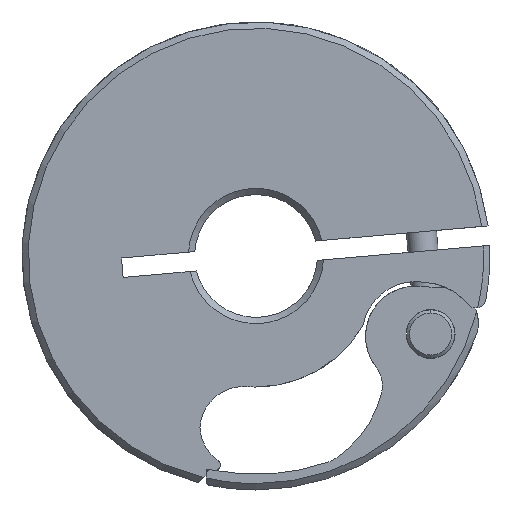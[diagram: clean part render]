
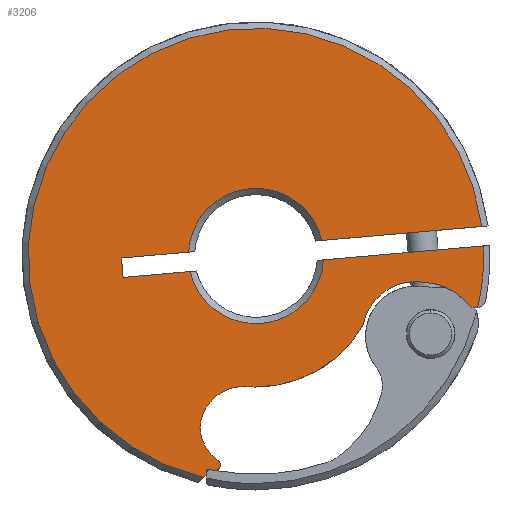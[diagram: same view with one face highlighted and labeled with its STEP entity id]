
A CAD part, front view. The second image highlights one B-rep face of the part: STEP entity #3206.
In plain terms, the highlighted planar face has unit normal (0, -1, 0).
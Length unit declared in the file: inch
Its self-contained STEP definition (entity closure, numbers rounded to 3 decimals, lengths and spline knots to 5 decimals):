
#752=CARTESIAN_POINT('',(0.,0.,0.));
#753=DIRECTION('',(0.,1.,0.));
#754=DIRECTION('',(-0.998,0.,0.057));
#755=AXIS2_PLACEMENT_3D('',#752,#753,#754);
#760=DIRECTION('',(0.996,0.,0.087));
#761=VECTOR('',#760,0.21541);
#762=CARTESIAN_POINT('',(-0.43109,0.,-0.00635));
#763=LINE('',#762,#761);
#767=DIRECTION('',(-0.087,0.,0.996));
#768=VECTOR('',#767,0.0625);
#769=CARTESIAN_POINT('',(-0.42564,0.,-0.06861));
#770=LINE('',#769,#768);
#774=CARTESIAN_POINT('',(0.,0.,0.));
#775=DIRECTION('',(0.,1.,0.));
#776=DIRECTION('',(0.998,0.,-0.057));
#777=AXIS2_PLACEMENT_3D('',#774,#775,#776);
#782=CARTESIAN_POINT('',(0.,0.,0.));
#783=DIRECTION('',(0.,-1.,0.));
#784=DIRECTION('',(0.974,0.,-0.227));
#785=AXIS2_PLACEMENT_3D('',#782,#783,#784);
#790=CARTESIAN_POINT('',(0.70488,0.,-0.13398));
#791=DIRECTION('',(0.,-1.,0.));
#792=DIRECTION('',(-0.774,0.,-0.633));
#793=AXIS2_PLACEMENT_3D('',#790,#791,#792);
#798=CARTESIAN_POINT('',(0.53177,0.,-0.27556));
#799=DIRECTION('',(0.,1.,0.));
#800=DIRECTION('',(0.06,0.,0.998));
#801=AXIS2_PLACEMENT_3D('',#798,#799,#800);
#806=CARTESIAN_POINT('',(0.51221,0.,-0.25395));
#807=DIRECTION('',(0.,1.,0.));
#808=DIRECTION('',(-0.984,0.,0.179));
#809=AXIS2_PLACEMENT_3D('',#806,#807,#808);
#814=CARTESIAN_POINT('',(-0.00154,0.,-0.01994));
#815=DIRECTION('',(0.,-1.,0.));
#816=DIRECTION('',(0.,0.,-1.));
#817=AXIS2_PLACEMENT_3D('',#814,#815,#816);
#822=CARTESIAN_POINT('',(-0.00154,0.,-0.01994));
#823=DIRECTION('',(0.,-1.,0.));
#824=DIRECTION('',(-0.071,0.,-0.997));
#825=AXIS2_PLACEMENT_3D('',#822,#823,#824);
#830=CARTESIAN_POINT('',(-0.04,0.,-0.55857));
#831=DIRECTION('',(0.,1.,0.));
#832=DIRECTION('',(-0.998,0.,0.06));
#833=AXIS2_PLACEMENT_3D('',#830,#831,#832);
#838=CARTESIAN_POINT('',(-0.04,0.,-0.54178));
#839=DIRECTION('',(0.,1.,0.));
#840=DIRECTION('',(-0.581,0.,-0.814));
#841=AXIS2_PLACEMENT_3D('',#838,#839,#840);
#846=CARTESIAN_POINT('',(-0.13,0.,-0.66798));
#847=DIRECTION('',(0.,-1.,0.));
#848=DIRECTION('',(1.,0.,0.));
#849=AXIS2_PLACEMENT_3D('',#846,#847,#848);
#854=DIRECTION('',(0.,0.,1.));
#855=VECTOR('',#854,0.00446);
#856=CARTESIAN_POINT('',(-0.115,0.,-0.67244));
#857=LINE('',#856,#855);
#861=CARTESIAN_POINT('',(-0.13,0.,-0.67244));
#862=DIRECTION('',(0.,-1.,0.));
#863=DIRECTION('',(0.,0.,-1.));
#864=AXIS2_PLACEMENT_3D('',#861,#862,#863);
#869=CARTESIAN_POINT('',(-0.13,0.,-0.67244));
#870=DIRECTION('',(0.,-1.,0.));
#871=DIRECTION('',(-0.156,0.,-0.988));
#872=AXIS2_PLACEMENT_3D('',#869,#870,#871);
#877=DIRECTION('',(0.988,0.,-0.156));
#878=VECTOR('',#877,0.028);
#879=CARTESIAN_POINT('',(-0.16,0.,-0.68287));
#880=LINE('',#879,#878);
#884=DIRECTION('',(0.,0.,1.));
#885=VECTOR('',#884,0.01986);
#886=CARTESIAN_POINT('',(-0.16,0.,-0.70273));
#887=LINE('',#886,#885);
#891=DIRECTION('',(0.707,0.,0.707));
#892=VECTOR('',#891,0.01094);
#893=CARTESIAN_POINT('',(-0.16773,0.,-0.71047));
#894=LINE('',#893,#892);
#898=CARTESIAN_POINT('',(0.,0.,0.));
#899=DIRECTION('',(0.,-1.,0.));
#900=DIRECTION('',(0.992,0.,0.13));
#901=AXIS2_PLACEMENT_3D('',#898,#899,#900);
#906=DIRECTION('',(0.996,0.,0.087));
#907=VECTOR('',#906,0.51474);
#908=CARTESIAN_POINT('',(0.21105,0.,0.04983));
#909=LINE('',#908,#907);
#913=CARTESIAN_POINT('',(0.,0.,0.));
#914=DIRECTION('',(0.,1.,0.));
#915=DIRECTION('',(0.,0.,1.));
#916=AXIS2_PLACEMENT_3D('',#913,#914,#915);
#965=DIRECTION('',(-0.996,0.,-0.087));
#966=VECTOR('',#965,0.21541);
#967=CARTESIAN_POINT('',(-0.21105,0.,-0.04983));
#968=LINE('',#967,#966);
#1074=DIRECTION('',(-0.996,0.,-0.087));
#1075=VECTOR('',#1074,0.51474);
#1076=CARTESIAN_POINT('',(0.72928,0.,0.03243));
#1077=LINE('',#1076,#1075);
#2593=CARTESIAN_POINT('',(0.21649,0.,-0.01243));
#2594=CARTESIAN_POINT('',(-0.21105,0.,-0.04983));
#2595=VERTEX_POINT('',#2593);
#2596=VERTEX_POINT('',#2594);
#2604=CARTESIAN_POINT('',(-0.42564,0.,-0.06861));
#2605=VERTEX_POINT('',#2604);
#2606=CARTESIAN_POINT('',(-0.21649,0.,0.01243));
#2607=CARTESIAN_POINT('',(0.,0.,0.21685));
#2608=VERTEX_POINT('',#2606);
#2609=VERTEX_POINT('',#2607);
#2610=CARTESIAN_POINT('',(-0.43109,0.,-0.00635));
#2611=VERTEX_POINT('',#2610);
#2612=CARTESIAN_POINT('',(0.72928,0.,0.03243));
#2613=VERTEX_POINT('',#2612);
#2614=CARTESIAN_POINT('',(0.7109,0.,-0.16591));
#2615=VERTEX_POINT('',#2614);
#2616=CARTESIAN_POINT('',(0.54321,0.,-0.08477));
#2617=CARTESIAN_POINT('',(0.67972,0.,-0.15455));
#2618=VERTEX_POINT('',#2616);
#2619=VERTEX_POINT('',#2617);
#2620=CARTESIAN_POINT('',(-0.00154,0.,-0.41994));
#2621=CARTESIAN_POINT('',(0.34298,0.,-0.22318));
#2622=VERTEX_POINT('',#2620);
#2623=VERTEX_POINT('',#2621);
#2624=CARTESIAN_POINT('',(-0.03001,0.,-0.41893));
#2625=VERTEX_POINT('',#2624);
#2626=CARTESIAN_POINT('',(-0.12129,0.,-0.65577));
#2627=CARTESIAN_POINT('',(-0.17975,0.,-0.55018));
#2628=VERTEX_POINT('',#2626);
#2629=VERTEX_POINT('',#2627);
#2630=CARTESIAN_POINT('',(-0.115,0.,-0.66798));
#2631=VERTEX_POINT('',#2630);
#2632=CARTESIAN_POINT('',(-0.115,0.,-0.67244));
#2633=VERTEX_POINT('',#2632);
#2634=CARTESIAN_POINT('',(-0.13,0.,-0.68744));
#2635=VERTEX_POINT('',#2634);
#2636=CARTESIAN_POINT('',(-0.13235,0.,-0.68725));
#2637=VERTEX_POINT('',#2636);
#2638=CARTESIAN_POINT('',(-0.16,0.,-0.68287));
#2639=VERTEX_POINT('',#2638);
#2640=CARTESIAN_POINT('',(-0.16,0.,-0.70273));
#2641=VERTEX_POINT('',#2640);
#2642=CARTESIAN_POINT('',(-0.16773,0.,-0.71047));
#2643=VERTEX_POINT('',#2642);
#2644=CARTESIAN_POINT('',(0.21105,0.,0.04983));
#2645=CARTESIAN_POINT('',(0.72383,0.,0.0947));
#2646=VERTEX_POINT('',#2644);
#2647=VERTEX_POINT('',#2645);
#3156=CARTESIAN_POINT('',(0.,0.,0.));
#3157=DIRECTION('',(0.,1.,0.));
#3158=DIRECTION('',(0.,0.,1.));
#3159=AXIS2_PLACEMENT_3D('',#3156,#3157,#3158);
#3160=PLANE('',#3159);
#3161=ORIENTED_EDGE('',*,*,#3014,.F.);
#3163=ORIENTED_EDGE('',*,*,#3162,.F.);
#3165=ORIENTED_EDGE('',*,*,#3164,.F.);
#3167=ORIENTED_EDGE('',*,*,#3166,.F.);
#3169=ORIENTED_EDGE('',*,*,#3168,.F.);
#3171=ORIENTED_EDGE('',*,*,#3170,.F.);
#3173=ORIENTED_EDGE('',*,*,#3172,.F.);
#3175=ORIENTED_EDGE('',*,*,#3174,.F.);
#3177=ORIENTED_EDGE('',*,*,#3176,.F.);
#3179=ORIENTED_EDGE('',*,*,#3178,.F.);
#3181=ORIENTED_EDGE('',*,*,#3180,.F.);
#3183=ORIENTED_EDGE('',*,*,#3182,.F.);
#3185=ORIENTED_EDGE('',*,*,#3184,.F.);
#3187=ORIENTED_EDGE('',*,*,#3186,.F.);
#3189=ORIENTED_EDGE('',*,*,#3188,.F.);
#3191=ORIENTED_EDGE('',*,*,#3190,.F.);
#3192=ORIENTED_EDGE('',*,*,#3146,.F.);
#3193=ORIENTED_EDGE('',*,*,#3144,.F.);
#3195=ORIENTED_EDGE('',*,*,#3194,.F.);
#3197=ORIENTED_EDGE('',*,*,#3196,.F.);
#3199=ORIENTED_EDGE('',*,*,#3198,.F.);
#3201=ORIENTED_EDGE('',*,*,#3200,.F.);
#3202=ORIENTED_EDGE('',*,*,#2984,.F.);
#3203=ORIENTED_EDGE('',*,*,#3016,.F.);
#3204=EDGE_LOOP('',(#3161,#3163,#3165,#3167,#3169,#3171,#3173,#3175,#3177,#3179,
#3181,#3183,#3185,#3187,#3189,#3191,#3192,#3193,#3195,#3197,#3199,#3201,#3202,
#3203));
#3205=FACE_OUTER_BOUND('',#3204,.F.);
#756=CIRCLE('',#755,0.21685);
#778=CIRCLE('',#777,0.21685);
#786=CIRCLE('',#785,0.73);
#794=CIRCLE('',#793,0.0325);
#802=CIRCLE('',#801,0.19114);
#810=CIRCLE('',#809,0.172);
#818=CIRCLE('',#817,0.4);
#826=CIRCLE('',#825,0.4);
#834=CIRCLE('',#833,0.14);
#842=CIRCLE('',#841,0.14);
#850=CIRCLE('',#849,0.015);
#865=CIRCLE('',#864,0.015);
#873=CIRCLE('',#872,0.015);
#902=CIRCLE('',#901,0.73);
#917=CIRCLE('',#916,0.21685);
#2984=EDGE_CURVE('',#2646,#2647,#909,.T.);
#3014=EDGE_CURVE('',#2608,#2609,#756,.T.);
#3016=EDGE_CURVE('',#2609,#2646,#917,.T.);
#3144=EDGE_CURVE('',#2637,#2635,#873,.T.);
#3146=EDGE_CURVE('',#2635,#2633,#865,.T.);
#3162=EDGE_CURVE('',#2611,#2608,#763,.T.);
#3164=EDGE_CURVE('',#2605,#2611,#770,.T.);
#3166=EDGE_CURVE('',#2596,#2605,#968,.T.);
#3168=EDGE_CURVE('',#2595,#2596,#778,.T.);
#3170=EDGE_CURVE('',#2613,#2595,#1077,.T.);
#3172=EDGE_CURVE('',#2615,#2613,#786,.T.);
#3174=EDGE_CURVE('',#2619,#2615,#794,.T.);
#3176=EDGE_CURVE('',#2618,#2619,#802,.T.);
#3178=EDGE_CURVE('',#2623,#2618,#810,.T.);
#3180=EDGE_CURVE('',#2622,#2623,#818,.T.);
#3182=EDGE_CURVE('',#2625,#2622,#826,.T.);
#3184=EDGE_CURVE('',#2629,#2625,#834,.T.);
#3186=EDGE_CURVE('',#2628,#2629,#842,.T.);
#3188=EDGE_CURVE('',#2631,#2628,#850,.T.);
#3190=EDGE_CURVE('',#2633,#2631,#857,.T.);
#3194=EDGE_CURVE('',#2639,#2637,#880,.T.);
#3196=EDGE_CURVE('',#2641,#2639,#887,.T.);
#3198=EDGE_CURVE('',#2643,#2641,#894,.T.);
#3200=EDGE_CURVE('',#2647,#2643,#902,.T.);
#3206=ADVANCED_FACE('',(#3205),#3160,.F.);
